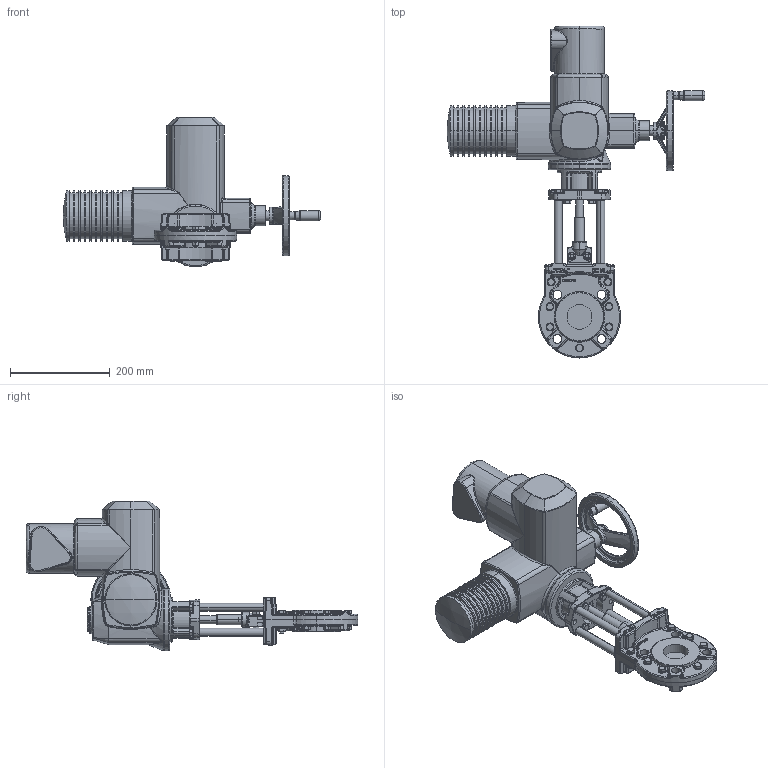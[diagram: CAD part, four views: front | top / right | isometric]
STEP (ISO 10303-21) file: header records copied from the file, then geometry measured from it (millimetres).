
FILE_DESCRIPTION (( 'STEP AP214' ), '1' );
FILE_NAME ('MGE DN 0050 PN10_16 (SA 07.2).STEP', '2015-09-23T08:36:57', ( 'admin' ), ( 'Hewlett-Packard Company' ), 'SwSTEP 2.0', 'SolidWorks 2013', '' );
FILE_SCHEMA (( 'AUTOMOTIVE_DESIGN' ));
Length unit declared in the file: millimetre
Products named in the file (1): MGE DN 0050 PN10_16 (SA 07.2)
Bounding box: 516 x 665 x 300.5 mm (x, y, z)
Volume: 8665622.2 mm3; surface area: 621073.9 mm2
Topology: 53 solids, 62 shells, 2740 faces, 6326 edges, 3740 vertices
Faces by surface type: plane 841, cylinder 741, cone 450, bspline 408, torus 232, sphere 68
Entity records: 127518 total; most frequent: CARTESIAN_POINT 37405, ORIENTED_EDGE 12496, DIRECTION 12250, EDGE_CURVE 6248, AXIS2_PLACEMENT_3D 4950, VERTEX_POINT 3740, EDGE_LOOP 2970, UNCERTAINTY_MEASURE_WITH_UNIT 2793
